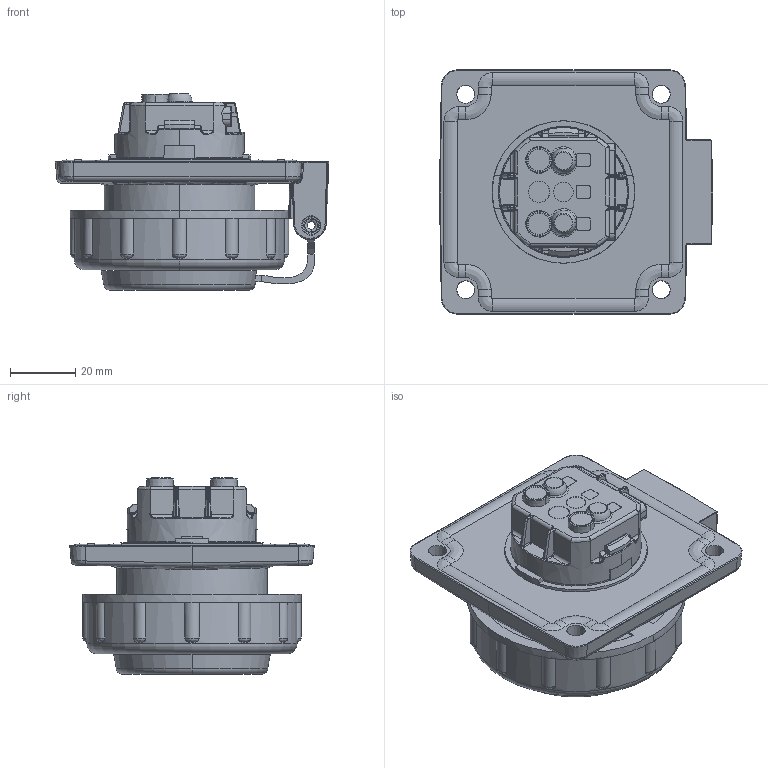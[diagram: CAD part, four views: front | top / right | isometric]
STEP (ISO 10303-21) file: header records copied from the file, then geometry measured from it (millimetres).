
FILE_DESCRIPTION((''),'2;1');
FILE_NAME('1115998_ASM_SW0002','2026-05-20T08:18:52',('kremer'),('MENNEKES'),'CREO PARAMETRIC BY PTC INC, 2024153','CREO PARAMETRIC BY PTC INC, 2024153','');
FILE_SCHEMA(('AUTOMOTIVE_DESIGN { 1 0 10303 214 1 1 1 1 }'));
Length unit declared in the file: millimetre
Products named in the file (1): 1115998_ASM_SW0002
Bounding box: 83.79 x 74.96 x 60.35 mm (x, y, z)
Volume: 144301.8 mm3; surface area: 29926.2 mm2
Topology: 2 solids, 2 shells, 674 faces, 1674 edges, 1027 vertices
Faces by surface type: cylinder 218, plane 203, bspline 118, torus 66, cone 47, sphere 12, extrusion 10
Entity records: 36324 total; most frequent: CARTESIAN_POINT 10906, ORIENTED_EDGE 3348, DIRECTION 2959, PRESENTATION_STYLE_ASSIGNMENT 2360, STYLED_ITEM 1686, CURVE_STYLE 1684, EDGE_CURVE 1674, AXIS2_PLACEMENT_3D 1149
